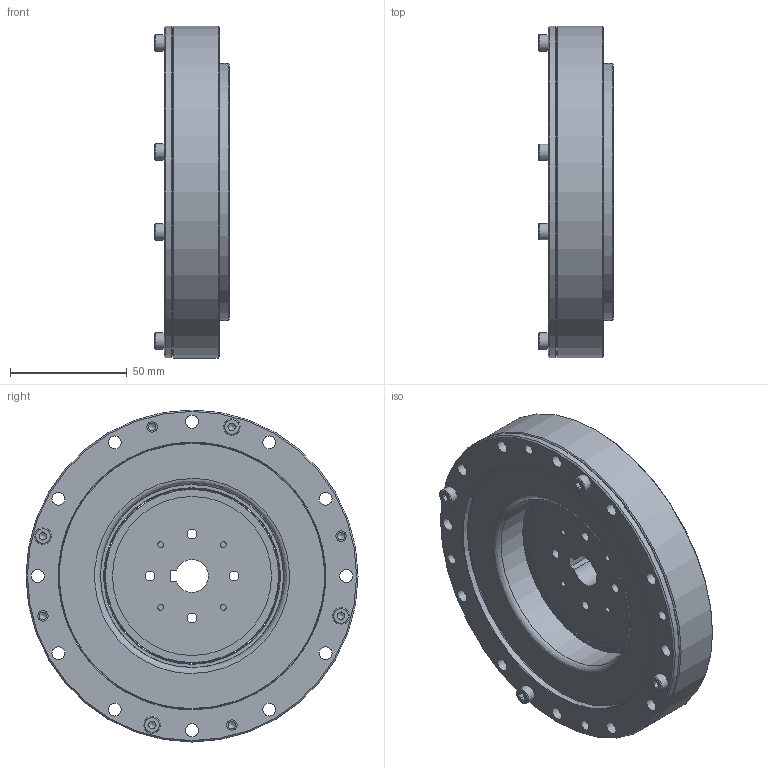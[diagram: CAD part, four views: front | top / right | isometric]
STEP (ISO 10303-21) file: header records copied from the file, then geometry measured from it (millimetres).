
FILE_DESCRIPTION (( 'STEP AP203' ), '1' );
FILE_NAME ('LHD-32-XXX-C-I.STEP', '2025-01-08T10:33:49', ( '' ), ( '' ), 'SwSTEP 2.0', 'SolidWorks 2023', '' );
FILE_SCHEMA (( 'CONFIG_CONTROL_DESIGN' ));
Length unit declared in the file: metre
Products named in the file (1): LHD-32-XXX-C-I
Bounding box: 31.95 x 142 x 142 mm (x, y, z)
Volume: 256332 mm3; surface area: 161242.5 mm2
Topology: 47 solids, 47 shells, 736 faces, 1743 edges, 1096 vertices
Faces by surface type: plane 338, cylinder 219, cone 112, bspline 67
Full cylindrical faces by diameter (mm): 2.5 x4, 3 x4, 3.3 x14, 3.4 x4, 4 x10, 4.2 x16, 4.5 x14, 5.5 x44, 7 x10, 8 x6, 29 x2, 55 x2, 57.6 x1, 59 x1, 60 x1, 62 x2, 62.575 x2, 63.52 x1, 68 x1, 74.08 x1, 75.075 x2, 78.6 x1, 78.608 x1, 79.986 x1, 80.825 x1, 82.255 x1, 86 x1, 86.8 x1, 87 x2, 90.2 x2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
Entity records: 22845 total; most frequent: CARTESIAN_POINT 7546, DIRECTION 3246, ORIENTED_EDGE 2636, AXIS2_PLACEMENT_3D 1380, EDGE_CURVE 1318, EDGE_LOOP 1202, VERTEX_POINT 990, FACE_OUTER_BOUND 929
